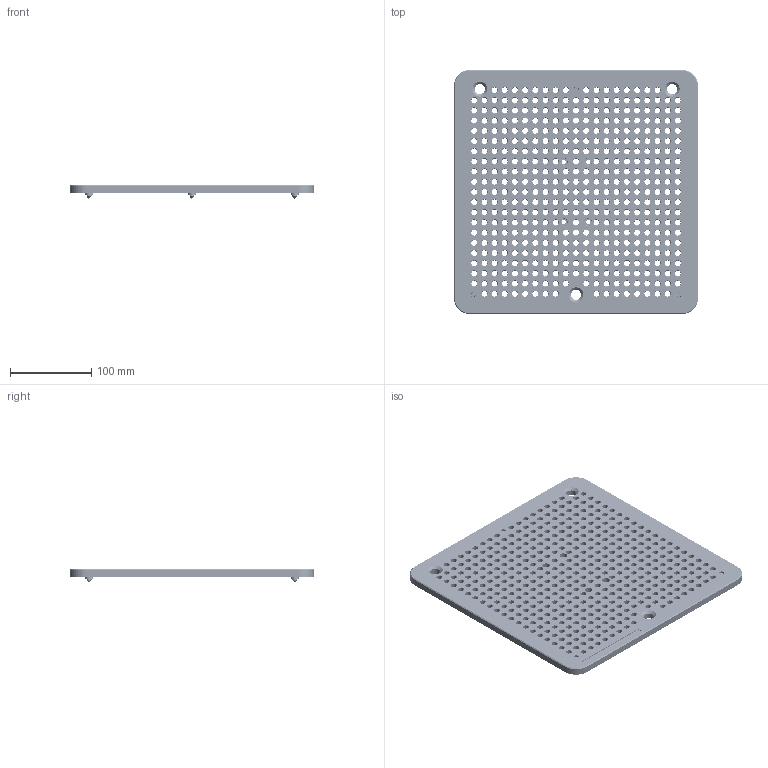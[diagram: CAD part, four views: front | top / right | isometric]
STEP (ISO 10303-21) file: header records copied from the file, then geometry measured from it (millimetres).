
FILE_DESCRIPTION(/* description */ (''),/* implementation_level */ '2;1');
FILE_NAME(/* name */ 'M8 MODULAR KINEMATIC.stp',/* time_stamp */ '2021-02-12T12:11:56+00:00',/* author */ (''),/* organization */ (''),/* preprocessor_version */ 'ST-DEVELOPER v16.7',/* originating_system */ 'SIEMENS PLM Software NX 1942',/* authorisation */ '');
FILE_SCHEMA (('AUTOMOTIVE_DESIGN { 1 0 10303 214 3 1 1 1 }'));
Length unit declared in the file: millimetre
Products named in the file (1): jh1424784273ezp9
Bounding box: 300 x 300 x 16.5 mm (x, y, z)
Volume: 728017.6 mm3; surface area: 251105.6 mm2
Topology: 5 solids, 5 shells, 1567 faces, 4230 edges, 2855 vertices
Faces by surface type: cone 887, cylinder 465, plane 212, sphere 3
Full cylindrical faces by diameter (mm): 5.2 x4, 5.5 x3, 5.825 x3, 6 x6, 6.9 x426, 9 x4, 9.5 x3, 10 x1, 12.4 x3
Entity records: 48157 total; most frequent: CARTESIAN_POINT 12068, DIRECTION 6949, ORIENTED_EDGE 5740, EDGE_LOOP 3956, FACE_BOUND 3781, AXIS2_PLACEMENT_3D 3400, EDGE_CURVE 2870, VERTEX_POINT 2834
